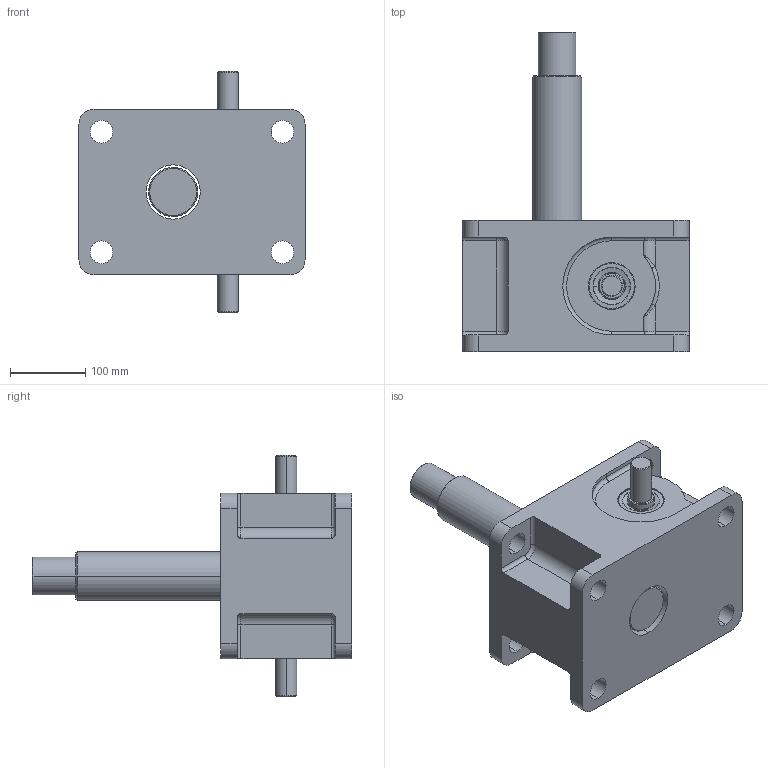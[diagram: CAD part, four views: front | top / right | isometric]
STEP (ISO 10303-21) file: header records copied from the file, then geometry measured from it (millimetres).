
FILE_DESCRIPTION (( 'STEP AP203' ), '1' );
FILE_NAME ('LMR20.STEP', '2008-07-31T00:19:42', ( 'Cliente' ), ( 'Home' ), 'SwSTEP 2.0', 'SolidWorks 2008', '' );
FILE_SCHEMA (( 'CONFIG_CONTROL_DESIGN' ));
Length unit declared in the file: millimetre
Products named in the file (6): LMR20; sem_fim_Valor predeterminado; carcaça_Valor predeterminado; fuso_Valor predeterminado; Taper Roller Bearing_DIN_DIN 720 - 30206 - 16,SI,NC,16; EspelharTaper Roller Bearing_DIN_DIN 720 - 30206 - 16,SI,NC,16
Assembly tree (5 placements, depth 2):
  LMR20
    EspelharTaper Roller Bearing_DIN_DIN 720 - 30206 - 16,SI,NC,16
    carcaça_Valor predeterminado
    sem_fim_Valor predeterminado
    Taper Roller Bearing_DIN_DIN 720 - 30206 - 16,SI,NC,16
    fuso_Valor predeterminado
Bounding box: 300 x 424 x 320 mm (x, y, z)
Volume: 9899906.3 mm3; surface area: 567850.9 mm2
Topology: 5 solids, 5 shells, 219 faces, 503 edges, 305 vertices
Faces by surface type: cylinder 94, cone 54, plane 45, torus 22, bspline 4
Entity records: 7352 total; most frequent: CARTESIAN_POINT 1551, DIRECTION 1208, ORIENTED_EDGE 1006, EDGE_CURVE 503, AXIS2_PLACEMENT_3D 494, VERTEX_POINT 305, CIRCLE 271, EDGE_LOOP 254
